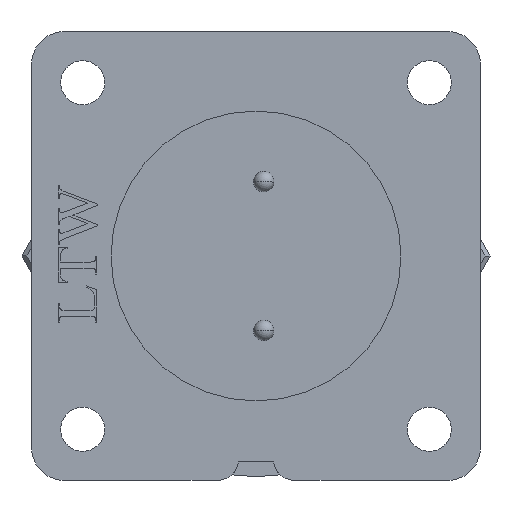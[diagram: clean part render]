
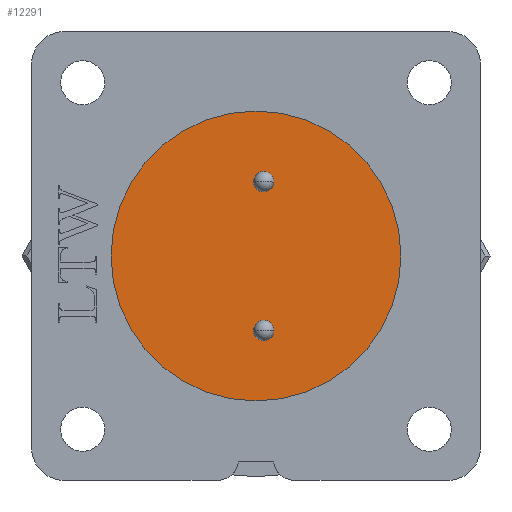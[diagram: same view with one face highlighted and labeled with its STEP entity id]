
A CAD part, left-side view. The second image highlights one B-rep face of the part: STEP entity #12291.
In plain terms, the highlighted planar face has unit normal (-1, 0, 0).
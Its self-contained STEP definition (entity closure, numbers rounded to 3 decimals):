
#3615=CARTESIAN_POINT('',(0.,0.,0.));
#3616=DIRECTION('',(1.,0.,0.));
#3617=DIRECTION('',(0.,-1.,0.));
#3618=AXIS2_PLACEMENT_3D('',#3615,#3616,#3617);
#3620=CARTESIAN_POINT('',(0.,0.,0.));
#3621=DIRECTION('',(1.,0.,0.));
#3622=DIRECTION('',(0.,1.,0.));
#3623=AXIS2_PLACEMENT_3D('',#3620,#3621,#3622);
#3625=CARTESIAN_POINT('',(0.,-0.54,5.24));
#3626=DIRECTION('',(-1.,0.,0.));
#3627=DIRECTION('',(0.,0.999,0.051));
#3628=AXIS2_PLACEMENT_3D('',#3625,#3626,#3627);
#3630=CARTESIAN_POINT('',(0.,-0.54,5.24));
#3631=DIRECTION('',(-1.,0.,0.));
#3632=DIRECTION('',(0.,-0.999,-0.051));
#3633=AXIS2_PLACEMENT_3D('',#3630,#3631,#3632);
#3635=CARTESIAN_POINT('',(0.,-0.54,-5.24));
#3636=DIRECTION('',(-1.,0.,0.));
#3637=DIRECTION('',(0.,0.999,0.051));
#3638=AXIS2_PLACEMENT_3D('',#3635,#3636,#3637);
#3640=CARTESIAN_POINT('',(0.,-0.54,-5.24));
#3641=DIRECTION('',(-1.,0.,0.));
#3642=DIRECTION('',(0.,-0.999,-0.051));
#3643=AXIS2_PLACEMENT_3D('',#3640,#3641,#3642);
#5513=CARTESIAN_POINT('',(0.,10.2,0.));
#5514=VERTEX_POINT('',#5513);
#5515=CARTESIAN_POINT('',(0.,-10.2,0.));
#5516=VERTEX_POINT('',#5515);
#5720=CARTESIAN_POINT('',(0.,0.184,5.277));
#5721=CARTESIAN_POINT('',(0.,-1.264,5.203));
#5722=VERTEX_POINT('',#5720);
#5723=VERTEX_POINT('',#5721);
#5728=CARTESIAN_POINT('',(0.,0.184,-5.203));
#5729=CARTESIAN_POINT('',(0.,-1.264,-5.277));
#5730=VERTEX_POINT('',#5728);
#5731=VERTEX_POINT('',#5729);
#12270=CARTESIAN_POINT('',(0.,0.,0.));
#12271=DIRECTION('',(1.,0.,0.));
#12272=DIRECTION('',(0.,-1.,0.));
#12273=AXIS2_PLACEMENT_3D('',#12270,#12271,#12272);
#12274=PLANE('',#12273);
#12275=ORIENTED_EDGE('',*,*,#12256,.T.);
#12276=ORIENTED_EDGE('',*,*,#12238,.T.);
#12277=EDGE_LOOP('',(#12275,#12276));
#12278=FACE_OUTER_BOUND('',#12277,.F.);
#12280=ORIENTED_EDGE('',*,*,#12279,.T.);
#12282=ORIENTED_EDGE('',*,*,#12281,.T.);
#12283=EDGE_LOOP('',(#12280,#12282));
#12284=FACE_BOUND('',#12283,.F.);
#12286=ORIENTED_EDGE('',*,*,#12285,.T.);
#12288=ORIENTED_EDGE('',*,*,#12287,.T.);
#12289=EDGE_LOOP('',(#12286,#12288));
#12290=FACE_BOUND('',#12289,.F.);
#12291=ADVANCED_FACE('',(#12278,#12284,#12290),#12274,.F.);
#3619=CIRCLE('',#3618,10.2);
#3624=CIRCLE('',#3623,10.2);
#3629=CIRCLE('',#3628,0.725);
#3634=CIRCLE('',#3633,0.725);
#3639=CIRCLE('',#3638,0.725);
#3644=CIRCLE('',#3643,0.725);
#12238=EDGE_CURVE('',#5514,#5516,#3624,.T.);
#12256=EDGE_CURVE('',#5516,#5514,#3619,.T.);
#12279=EDGE_CURVE('',#5722,#5723,#3629,.T.);
#12281=EDGE_CURVE('',#5723,#5722,#3634,.T.);
#12285=EDGE_CURVE('',#5730,#5731,#3639,.T.);
#12287=EDGE_CURVE('',#5731,#5730,#3644,.T.);
